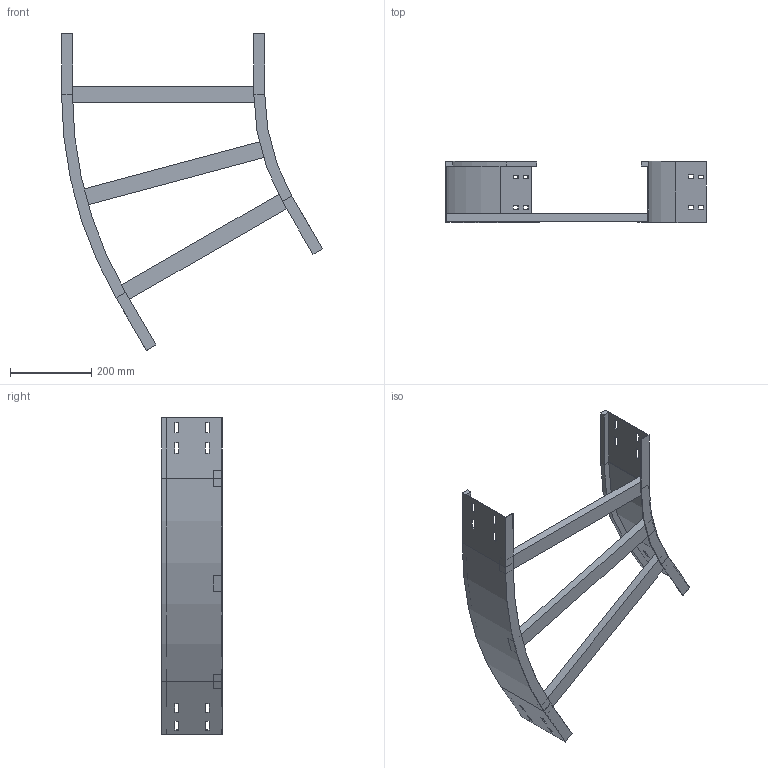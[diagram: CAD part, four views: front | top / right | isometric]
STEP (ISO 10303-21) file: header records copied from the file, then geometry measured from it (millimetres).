
FILE_DESCRIPTION (( 'STEP AP214' ), '1' );
FILE_NAME ('12J5F500.step', '2025-02-21T16:23:42', ( '' ), ( '' ), 'SwSTEP 2.0', 'SolidWorks 2023', '' );
FILE_SCHEMA (( 'AUTOMOTIVE_DESIGN' ));
Length unit declared in the file: millimetre
Products named in the file (4): LONGH.ESTERNO 30°_H150_R500+500; TRAVERSINO_500; 12J5F500; LONGH.INTERNO 30°_H150_R500
Assembly tree (5 placements, depth 2):
  12J5F500
    LONGH.INTERNO 30°_H150_R500
    LONGH.ESTERNO 30°_H150_R500+500
    TRAVERSINO_500  x3
Bounding box: 641.99 x 150 x 779.9 mm (x, y, z)
Volume: 1948965.8 mm3; surface area: 716815.7 mm2
Topology: 5 solids, 5 shells, 134 faces, 340 edges, 216 vertices
Faces by surface type: plane 126, cylinder 8
Entity records: 3821 total; most frequent: CARTESIAN_POINT 646, ORIENTED_EDGE 632, DIRECTION 592, EDGE_CURVE 316, LINE 300, VECTOR 300, VERTEX_POINT 200, EDGE_LOOP 154
